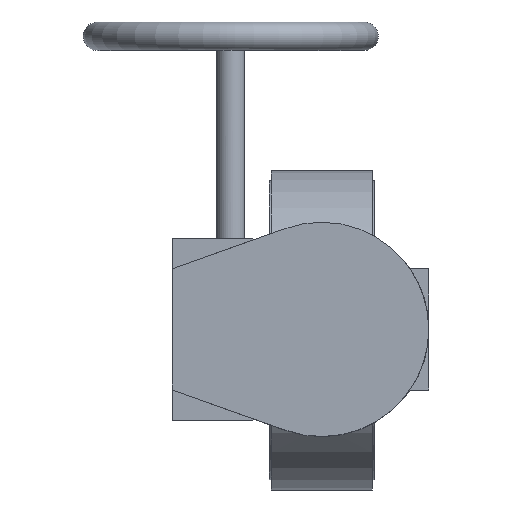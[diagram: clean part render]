
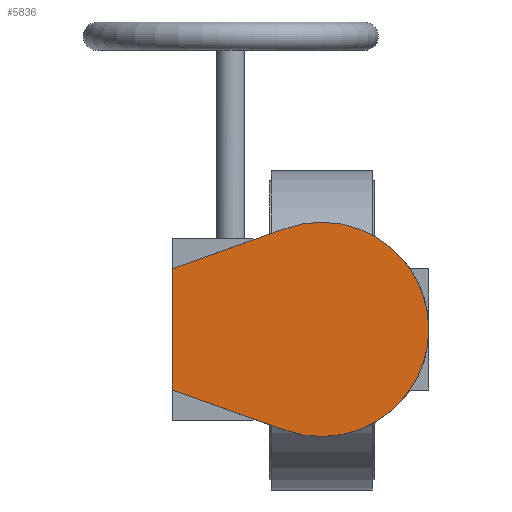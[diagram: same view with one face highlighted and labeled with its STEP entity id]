
A CAD part, top view. The second image highlights one B-rep face of the part: STEP entity #5836.
In plain terms, the highlighted planar face has unit normal (0, 0, 1).
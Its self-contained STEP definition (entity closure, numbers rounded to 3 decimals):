
#5836=ADVANCED_FACE('',(#10653),#10655,.T.);
#10653=FACE_BOUND('',#10654,.T.);
#10654=EDGE_LOOP('',(#14467,#14468,#14469,#14470));
#10655=PLANE('',#10656);
#10656=AXIS2_PLACEMENT_3D('',#10657,#10658,#10659);
#10657=CARTESIAN_POINT('',(0.,0.,265.));
#10658=DIRECTION('',(0.,0.,1.));
#10659=DIRECTION('',(0.,1.,0.));
#14467=ORIENTED_EDGE('',*,*,#16397,.T.);
#14468=ORIENTED_EDGE('',*,*,#16393,.T.);
#14469=ORIENTED_EDGE('',*,*,#16386,.T.);
#14470=ORIENTED_EDGE('',*,*,#16381,.T.);
#16381=EDGE_CURVE('',#19480,#19478,#19481,.T.);
#16386=EDGE_CURVE('',#19488,#19480,#19489,.T.);
#16393=EDGE_CURVE('',#19501,#19488,#19502,.T.);
#16397=EDGE_CURVE('',#19478,#19501,#19507,.T.);
#19478=VERTEX_POINT('',#27875);
#19480=VERTEX_POINT('',#27879);
#19481=LINE('',#27880,#27881);
#19488=VERTEX_POINT('',#27897);
#19489=LINE('',#27898,#27899);
#19501=VERTEX_POINT('',#27924);
#19502=LINE('',#27925,#27926);
#19507=CIRCLE('',#27938,53.);
#27875=CARTESIAN_POINT('',(-17.708,-49.954,265.));
#27879=CARTESIAN_POINT('',(-74.,-30.,265.));
#27880=CARTESIAN_POINT('',(-74.,-30.,265.));
#27881=VECTOR('',#27882,1.);
#27882=DIRECTION('',(0.943,-0.334,0.));
#27897=CARTESIAN_POINT('',(-74.,30.,265.));
#27898=CARTESIAN_POINT('',(-74.,30.,265.));
#27899=VECTOR('',#27900,1.);
#27900=DIRECTION('',(0.,-1.,0.));
#27924=CARTESIAN_POINT('',(-17.708,49.954,265.));
#27925=CARTESIAN_POINT('',(-17.708,49.954,265.));
#27926=VECTOR('',#27927,1.);
#27927=DIRECTION('',(-0.943,-0.334,0.));
#27938=AXIS2_PLACEMENT_3D('',#27939,#27940,#27941);
#27939=CARTESIAN_POINT('',(0.,0.,265.));
#27940=DIRECTION('',(0.,0.,1.));
#27941=DIRECTION('',(-0.334,-0.943,0.));
